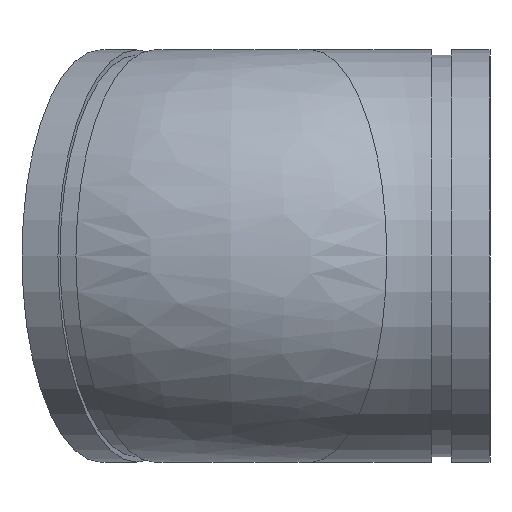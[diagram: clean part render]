
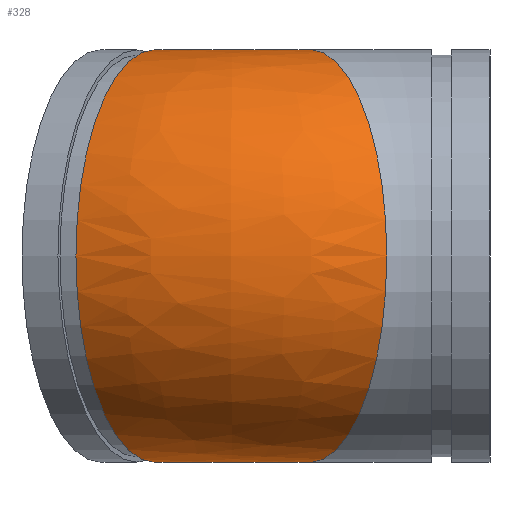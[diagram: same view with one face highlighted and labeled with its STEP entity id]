
A CAD part, left-side view. The second image highlights one B-rep face of the part: STEP entity #328.
In plain terms, the highlighted free-form (B-spline) face has degree [2, 2] with [9, 3] control points.
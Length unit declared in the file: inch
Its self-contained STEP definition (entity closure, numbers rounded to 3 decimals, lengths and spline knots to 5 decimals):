
#63=(
BOUNDED_SURFACE()
B_SPLINE_SURFACE(2,2,((#592,#593,#594),(#595,#596,#597),(#598,#599,#600),
(#601,#602,#603),(#604,#605,#606),(#607,#608,#609),(#610,#611,#612),(#613,
#614,#615),(#616,#617,#618)),.UNSPECIFIED.,.T.,.F.,.F.)
B_SPLINE_SURFACE_WITH_KNOTS((3,2,2,2,3),(3,3),(-3.14159,-1.5708,
0.,1.5708,3.14159),(-0.37998,0.3927),
 .UNSPECIFIED.)
GEOMETRIC_REPRESENTATION_ITEM()
RATIONAL_B_SPLINE_SURFACE(((1.,0.926,1.),(0.707,
0.655,0.707),(1.,0.926,1.),(0.707,
0.655,0.707),(1.,0.926,1.),(0.707,
0.655,0.707),(1.,0.926,1.),(0.707,
0.655,0.707),(1.,0.926,1.)))
REPRESENTATION_ITEM('')
SURFACE()
);
#77=FACE_OUTER_BOUND('',#95,.T.);
#95=EDGE_LOOP('',(#238,#239,#240));
#115=CIRCLE('',#366,3.3125);
#127=CIRCLE('',#380,3.3125);
#128=CIRCLE('',#381,3.3125);
#150=VERTEX_POINT('',#568);
#160=VERTEX_POINT('',#619);
#181=EDGE_CURVE('',#150,#150,#115,.T.);
#193=EDGE_CURVE('',#150,#160,#127,.T.);
#194=EDGE_CURVE('',#160,#150,#128,.T.);
#238=ORIENTED_EDGE('',*,*,#193,.T.);
#239=ORIENTED_EDGE('',*,*,#194,.T.);
#240=ORIENTED_EDGE('',*,*,#181,.F.);
#328=ADVANCED_FACE('',(#77),#63,.F.);
#366=AXIS2_PLACEMENT_3D('',#569,#437,#438);
#380=AXIS2_PLACEMENT_3D('',#620,#465,#466);
#381=AXIS2_PLACEMENT_3D('',#621,#467,#468);
#437=DIRECTION('center_axis',(0.383,0.924,0.));
#438=DIRECTION('ref_axis',(-0.924,0.383,0.));
#465=DIRECTION('center_axis',(-0.371,0.929,0.));
#466=DIRECTION('ref_axis',(-0.929,-0.371,0.));
#467=DIRECTION('center_axis',(-0.371,0.929,0.));
#468=DIRECTION('ref_axis',(-0.929,-0.371,0.));
#568=CARTESIAN_POINT('',(2.70139,4.11576,0.));
#569=CARTESIAN_POINT('Origin',(-0.35896,5.3834,0.));
#592=CARTESIAN_POINT('Ctrl Pts',(2.70139,4.11576,0.));
#593=CARTESIAN_POINT('Ctrl Pts',(2.70139,4.11576,0.));
#594=CARTESIAN_POINT('Ctrl Pts',(2.70139,4.11576,0.));
#595=CARTESIAN_POINT('Ctrl Pts',(2.70139,4.11576,3.3125));
#596=CARTESIAN_POINT('Ctrl Pts',(2.70139,4.11576,3.3125));
#597=CARTESIAN_POINT('Ctrl Pts',(2.70139,4.11576,3.3125));
#598=CARTESIAN_POINT('Ctrl Pts',(-0.37484,2.88716,3.3125));
#599=CARTESIAN_POINT('Ctrl Pts',(-0.87461,4.13851,3.3125));
#600=CARTESIAN_POINT('Ctrl Pts',(-0.35896,5.3834,3.3125));
#601=CARTESIAN_POINT('Ctrl Pts',(-3.45107,1.65857,3.3125));
#602=CARTESIAN_POINT('Ctrl Pts',(-4.45061,4.16126,3.3125));
#603=CARTESIAN_POINT('Ctrl Pts',(-3.41931,6.65104,3.3125));
#604=CARTESIAN_POINT('Ctrl Pts',(-3.45107,1.65857,0.));
#605=CARTESIAN_POINT('Ctrl Pts',(-4.45061,4.16126,0.));
#606=CARTESIAN_POINT('Ctrl Pts',(-3.41931,6.65104,0.));
#607=CARTESIAN_POINT('Ctrl Pts',(-3.45107,1.65857,-3.3125));
#608=CARTESIAN_POINT('Ctrl Pts',(-4.45061,4.16126,-3.3125));
#609=CARTESIAN_POINT('Ctrl Pts',(-3.41931,6.65104,-3.3125));
#610=CARTESIAN_POINT('Ctrl Pts',(-0.37484,2.88716,-3.3125));
#611=CARTESIAN_POINT('Ctrl Pts',(-0.87461,4.13851,-3.3125));
#612=CARTESIAN_POINT('Ctrl Pts',(-0.35896,5.3834,-3.3125));
#613=CARTESIAN_POINT('Ctrl Pts',(2.70139,4.11576,-3.3125));
#614=CARTESIAN_POINT('Ctrl Pts',(2.70139,4.11576,-3.3125));
#615=CARTESIAN_POINT('Ctrl Pts',(2.70139,4.11576,-3.3125));
#616=CARTESIAN_POINT('Ctrl Pts',(2.70139,4.11576,0.));
#617=CARTESIAN_POINT('Ctrl Pts',(2.70139,4.11576,0.));
#618=CARTESIAN_POINT('Ctrl Pts',(2.70139,4.11576,0.));
#619=CARTESIAN_POINT('',(-3.45107,1.65857,0.));
#620=CARTESIAN_POINT('Origin',(-0.37484,2.88716,0.));
#621=CARTESIAN_POINT('Origin',(-0.37484,2.88716,0.));
